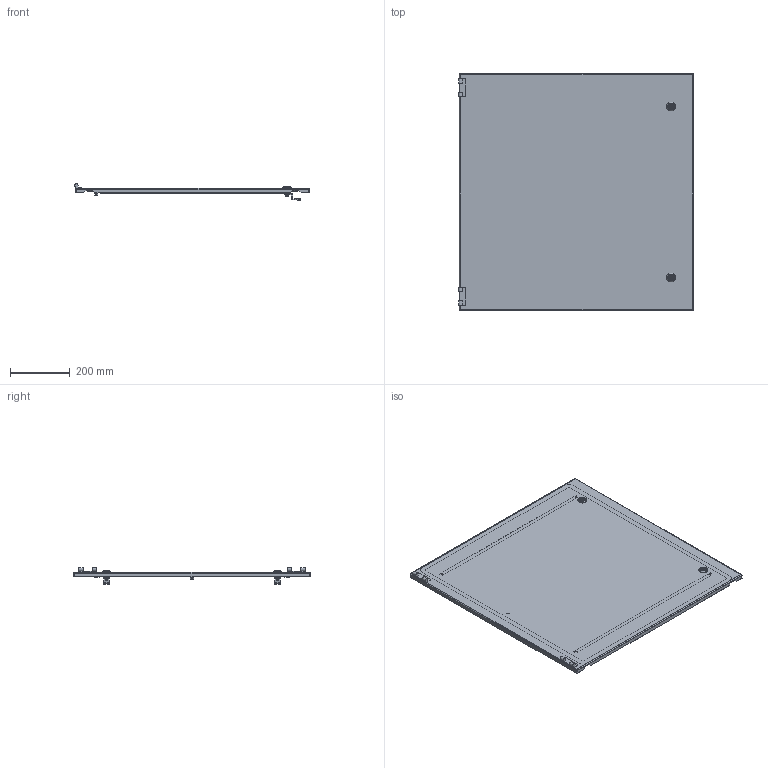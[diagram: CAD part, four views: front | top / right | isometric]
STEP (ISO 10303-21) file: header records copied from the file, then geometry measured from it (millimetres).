
FILE_DESCRIPTION (( 'STEP AP214' ), '1' );
FILE_NAME ('D 80.80 M Äâåðü ñåêöèîííàÿ ãëóõàÿ.STEP', '2016-10-10T07:05:33', ( '' ), ( '' ), 'SwSTEP 2.0', 'SolidWorks 2012', '' );
FILE_SCHEMA (( 'AUTOMOTIVE_DESIGN' ));
Length unit declared in the file: millimetre
Products named in the file (1): D 80.80 M Äâåðü ñåêöèîííàÿ ãëóõàÿ
Bounding box: 788.2 x 794 x 56.33 mm (x, y, z)
Volume: 1719833.5 mm3; surface area: 1576907 mm2
Topology: 12 solids, 12 shells, 717 faces, 1870 edges, 1194 vertices
Faces by surface type: cylinder 306, plane 299, cone 64, bspline 22, torus 18, sphere 8
Entity records: 23611 total; most frequent: CARTESIAN_POINT 5308, DIRECTION 3808, ORIENTED_EDGE 3724, EDGE_CURVE 1862, AXIS2_PLACEMENT_3D 1412, VERTEX_POINT 1194, LINE 984, VECTOR 984
